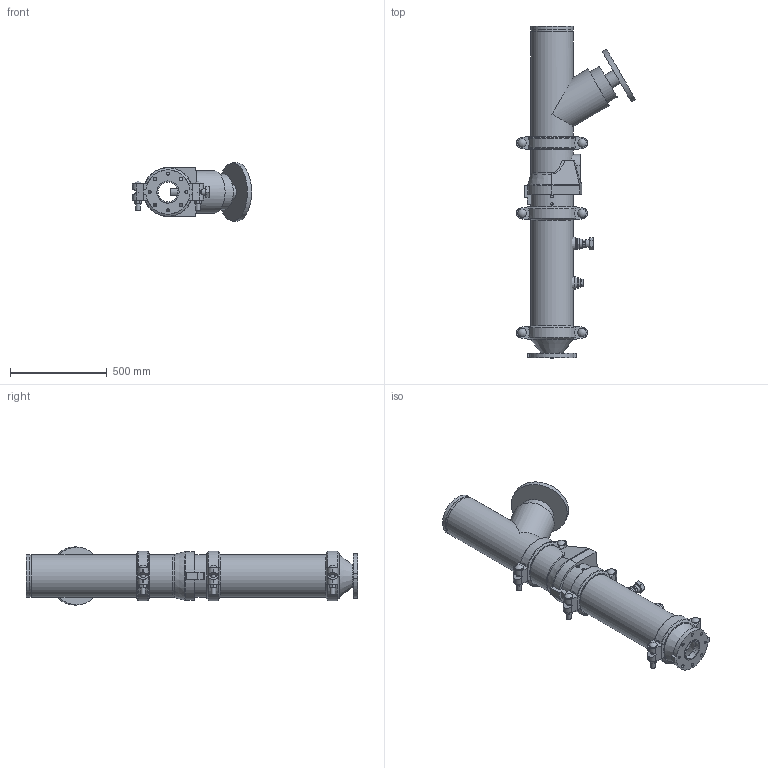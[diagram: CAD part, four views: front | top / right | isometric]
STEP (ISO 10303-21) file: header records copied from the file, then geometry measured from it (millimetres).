
FILE_DESCRIPTION(/* description */ ('VIC DVI PUMP DROP VERT S/383 (OGSxFLG) (S/924-1.25)','CAx-IF Rec.Pracs.---Representation and Presentation of Product Manufacturing Information (PMI)---4.0---2014-10-13'),/* implementation_level */ '2;1');
FILE_NAME(/* name */ 'C:\Users\Public\Documents\Victaulic.Temp\A849\Victaulic_IPS_Vertical DVI_CL 150_Series 383 (OGSxFLG)_924 (1.25)_08.0x04.0 (200x100).stp',/* time_stamp */ '2022-07-25T11:41:14+02:00',/* author */ ('Vjadhav'),/* organization */ ('Victaulic'),/* preprocessor_version */ 'ST-DEVELOPER v18',/* originating_system */ 'Autodesk Inventor 2020',/* authorisation */ '');
FILE_SCHEMA (('AP242_MANAGED_MODEL_BASED_3D_ENGINEERING_MIM_LF { 1 0 10303 442 1 1 4 }'));
Length unit declared in the file: inch
Products named in the file (9): 383_924 (1.25)-08.0x04.0; 741-04.0; 050-08.0x04.0; Pipe-08.0; 177N-08.0; 789-08.0; 779-08.0; 924-04.0x01.25; 923-04.0x0.75
Assembly tree (10 placements, depth 2):
  383_924 (1.25)-08.0x04.0
    741-04.0
    050-08.0x04.0
    177N-08.0  x3
    Pipe-08.0
    789-08.0
    779-08.0
    924-04.0x01.25
    923-04.0x0.75
Bounding box: 615.44 x 1714.5 x 299.97 mm (x, y, z)
Volume: 27133755.4 mm3; surface area: 3438992.1 mm2
Topology: 10 solids, 11 shells, 536 faces, 1407 edges, 946 vertices
Faces by surface type: plane 312, cylinder 179, cone 19, torus 18, sphere 6, bspline 2
Full cylindrical faces by diameter (mm): 13.716 x4, 15.875 x8, 21.336 x1, 23.774 x6, 26.67 x2, 38.608 x1, 42.164 x1, 42.85 x6, 45.974 x4, 48.514 x1, 55.626 x2, 76.2 x1, 102.26 x1, 110.084 x1, 114.3 x3, 183.515 x1, 202.717 x4, 206.375 x3, 214.401 x7, 219.075 x19, 299.974 x1
Entity records: 12065 total; most frequent: CARTESIAN_POINT 2445, DIRECTION 1976, ORIENTED_EDGE 1794, EDGE_CURVE 897, AXIS2_PLACEMENT_3D 755, VERTEX_POINT 610, LINE 466, VECTOR 466
